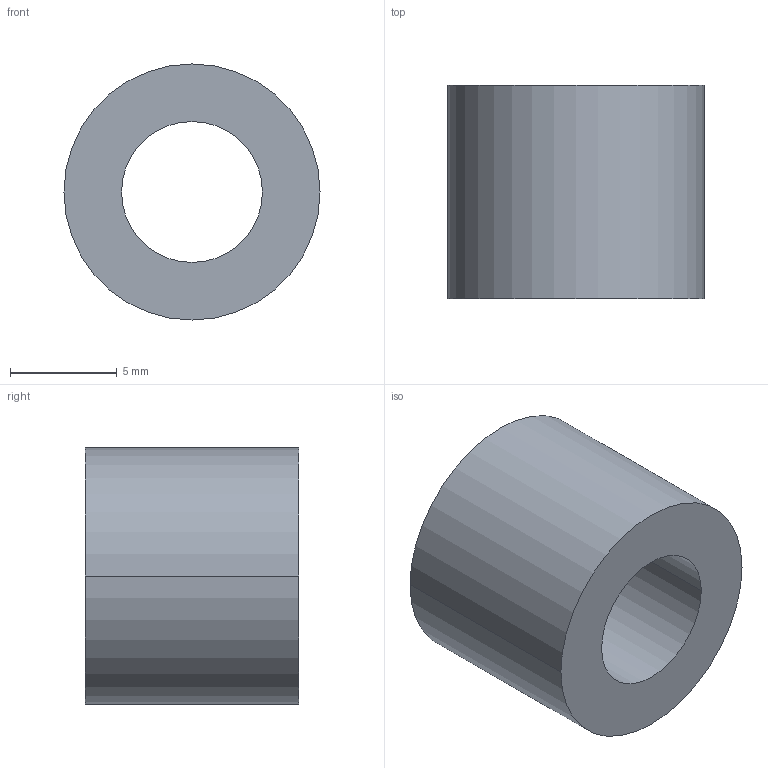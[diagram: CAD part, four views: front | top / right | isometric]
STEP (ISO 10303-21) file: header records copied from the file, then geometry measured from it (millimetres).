
FILE_DESCRIPTION (( 'STEP AP203' ), '1' );
FILE_NAME ('30800.WPP12D6.6.step', '2019-01-23T22:25:50', ( '' ), ( '' ), 'SwSTEP 2.0', 'SolidWorks 2017', '' );
FILE_SCHEMA (( 'CONFIG_CONTROL_DESIGN' ));
Length unit declared in the file: millimetre
Products named in the file (1): 30800.WPP12D6.6
Bounding box: 12 x 10 x 12 mm (x, y, z)
Volume: 777.8 mm3; surface area: 729.8 mm2
Topology: 1 solids, 1 shells, 8 faces, 16 edges, 10 vertices
Faces by surface type: cylinder 4, torus 2, plane 2
Entity records: 297 total; most frequent: DIRECTION 46, CARTESIAN_POINT 35, ORIENTED_EDGE 32, AXIS2_PLACEMENT_3D 21, EDGE_CURVE 16, CIRCLE 12, VERTEX_POINT 10, EDGE_LOOP 10
